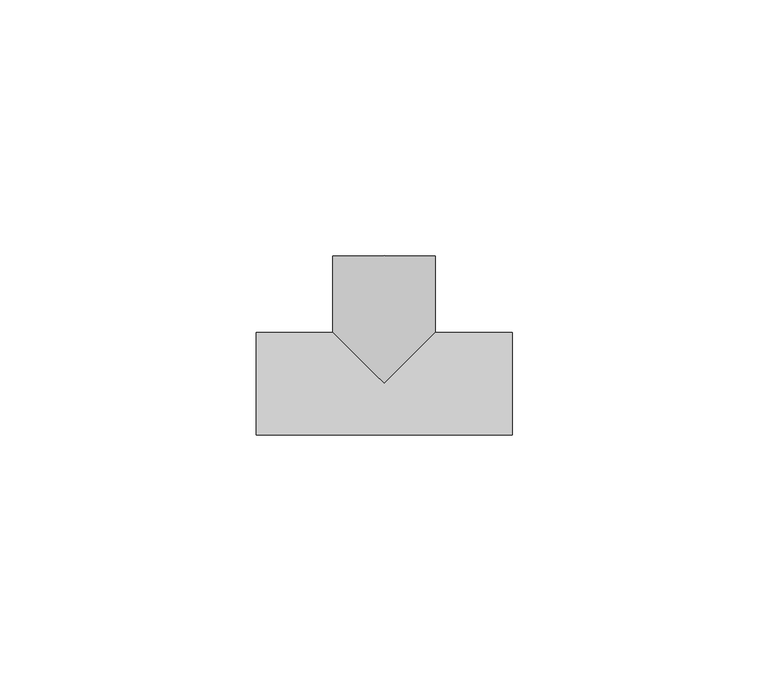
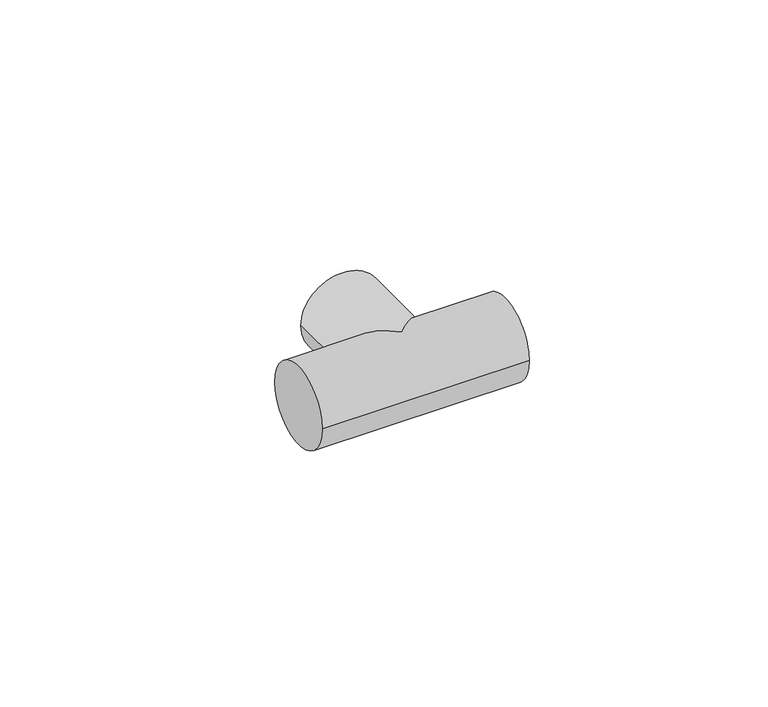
"""IFC4 building model written with IfcOpenShell, lengths in millimetres: cable carrier fitting geometry, Тройник открывающийся TIG : Тройник открывающийся TIG."""

from ifc_helpers import new_model, si_unit, frame, origin, place, context, project, spatial, circle_curve, ellipse_curve, source, transform, mapped, element, save
from ifc_brep_helpers import plane_surface, cylinder_surface, advanced_brep


def cable_carrier_fitting_24b0fe75(model_context):
    return source(origin(), model_context, "Body", "AdvancedBrep", [
        advanced_brep(
        [(25.0, -10.0, 0.0), (25.0, 10.0, 0.0), (-25.0, -10.0, 0.0), (-25.0, 10.0, 0.0), (-10.0, 10.0, 0.0), (0.0, 0.0, -10.0), (10.0, 10.0, 0.0), (0.0, 0.0, 10.0), (-10.0, 25.0, 0.0), (10.0, 25.0, 0.0)],
        [
            (0, 1, circle_curve(frame((25.0, 0.0, 0.0), z_axis=(1.0, 0.0, 0.0), x_axis=(0.0, 1.0, 0.0)), 10.0)),
            (1, 0, circle_curve(frame((25.0, 0.0, 0.0), z_axis=(1.0, 0.0, 0.0), x_axis=(0.0, 1.0, 0.0)), 10.0)),
            (2, 3, circle_curve(frame((-25.0, 0.0, 0.0), z_axis=(-1.0, 0.0, 0.0), x_axis=(0.0, 1.0, 0.0)), 10.0)),
            (3, 2, circle_curve(frame((-25.0, 0.0, 0.0), z_axis=(-1.0, 0.0, 0.0), x_axis=(0.0, 1.0, 0.0)), 10.0)),
            (0, 2),
            (3, 4),
            (4, 5, ellipse_curve(frame((0.0, 0.0, 0.0), z_axis=(-0.7071067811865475, -0.7071067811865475, 0.0), x_axis=(0.7071067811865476, -0.7071067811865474, 0.0)), 14.1421356, 10.0)),
            (5, 6, ellipse_curve(frame((0.0, 0.0, 0.0), z_axis=(0.7071067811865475, -0.7071067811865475, 0.0), x_axis=(0.7071067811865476, 0.7071067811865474, 0.0)), 14.1421356, 10.0)),
            (6, 1),
            (6, 7, ellipse_curve(frame((0.0, 0.0, 0.0), z_axis=(0.7071067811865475, -0.7071067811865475, 0.0), x_axis=(0.7071067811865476, 0.7071067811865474, 0.0)), 14.1421356, 10.0)),
            (7, 4, ellipse_curve(frame((0.0, 0.0, 0.0), z_axis=(-0.7071067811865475, -0.7071067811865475, 0.0), x_axis=(0.7071067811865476, -0.7071067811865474, 0.0)), 14.1421356, 10.0)),
            (8, 9, circle_curve(frame((0.0, 25.0, 0.0), z_axis=(0.0, 1.0, 0.0), x_axis=(0.9999999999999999, 0.0, 0.0)), 10.0)),
            (9, 8, circle_curve(frame((0.0, 25.0, 0.0), z_axis=(0.0, 1.0, 0.0), x_axis=(0.9999999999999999, 0.0, 0.0)), 10.0)),
            (9, 6),
            (4, 8),
        ],
        [
            plane_surface(frame((25.0, 10.0, 0.0), z_axis=(0.9999999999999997, 0.0, 0.0), x_axis=(0.0, 0.0, 0.9999999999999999))),
            plane_surface(frame((-25.0, 10.0, 0.0), z_axis=(-0.9999999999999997, 0.0, 0.0), x_axis=(0.0, 0.0, -0.9999999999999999))),
            cylinder_surface(frame((-25.0, 0.0, 0.0), z_axis=(0.9999999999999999, 0.0, 0.0), x_axis=(0.0, 1.0, 0.0)), 10.0),
            plane_surface(frame((10.0, 25.0, 0.0), z_axis=(0.0, 0.9999999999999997, 0.0), x_axis=(0.0, 0.0, -0.9999999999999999))),
            cylinder_surface(frame((0.0, 25.0, 0.0), z_axis=(0.0, -0.9999999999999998, 0.0), x_axis=(0.9999999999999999, 0.0, 0.0)), 10.0),
        ],
        [
            (0, [[1, 2]]),
            (1, [[3, 4]]),
            (2, [[-1, 5, -4, 6, 7, 8, 9]]),
            (2, [[-2, -9, 10, 11, -6, -3, -5]]),
            (3, [[12, 13]]),
            (4, [[-13, 14, -8, -7, 15]]),
            (4, [[-12, -15, -11, -10, -14]]),
        ],
    ),
    ])


if __name__ == "__main__":
    model = new_model("IFC4")
    model_context = context("Model", 3, world=origin())
    ifc_project = project(units=[si_unit("LENGTHUNIT", "METRE", prefix="MILLI")], contexts=[model_context])
    site = spatial("IfcSite", under=ifc_project)
    building = spatial("IfcBuilding", under=site)
    placement = place(None, origin())
    cable_carrier_fitting_shape = cable_carrier_fitting_24b0fe75(model_context)
    element("IfcCableCarrierFitting", 1, ObjectType="Тройник открывающийся TIG : Тройник открывающийся TIG", at=placement, inside=building, context=model_context, shape_type="MappedRepresentation", body=[
        mapped(cable_carrier_fitting_shape, transform((0.0, 0.0, 0.0), x_axis=(1.0, 0.0, 0.0), y_axis=(0.0, 1.0, 0.0), z_axis=(0.0, 0.0, 1.0))),
    ])
    save(model, "model.ifc")
